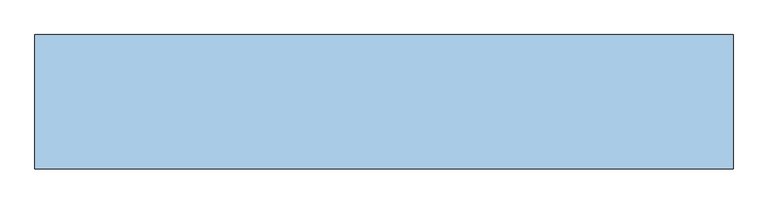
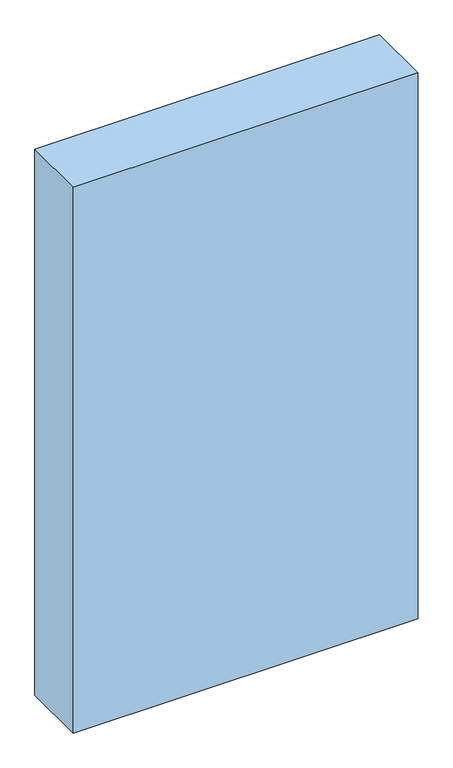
"""IFC4 building model written with IfcOpenShell, lengths in millimetres: window geometry, Dr_Проем-Четверти_об модель : ОК."""

from ifc_helpers import new_model, si_unit, frame, origin, place, context, project, spatial, polyline, outline, extrude, source, transform, mapped, element, save


def window_1203b59f(model_context):
    return source(origin(), model_context, "Body", "SweptSolid", [
        extrude(outline(polyline([(655.0, 100.0), (655.0, -100.0), (-385.0, -100.0), (-385.0, 100.0), (655.0, 100.0)])), frame((0.0, 0.0, -70.0), z_axis=(0.0, 0.0, 1.0), x_axis=(1.0, 0.0, 0.0)), (0.0, 0.0, 1.0), 1740.0),
    ])


if __name__ == "__main__":
    model = new_model("IFC4")
    model_context = context("Model", 3, world=origin())
    ifc_project = project(units=[si_unit("LENGTHUNIT", "METRE", prefix="MILLI")], contexts=[model_context])
    site = spatial("IfcSite", under=ifc_project)
    building = spatial("IfcBuilding", under=site)
    placement = place(None, origin())
    window_shape = window_1203b59f(model_context)
    element("IfcWindow", 1, ObjectType="Dr_Проем-Четверти_об модель : ОК", at=placement, inside=building, context=model_context, shape_type="MappedRepresentation", body=[
        mapped(window_shape, transform((0.0, 0.0, 0.0), x_axis=(1.0, 0.0, 0.0), y_axis=(0.0, 1.0, 0.0), z_axis=(0.0, 0.0, 1.0))),
    ])
    save(model, "model.ifc")
